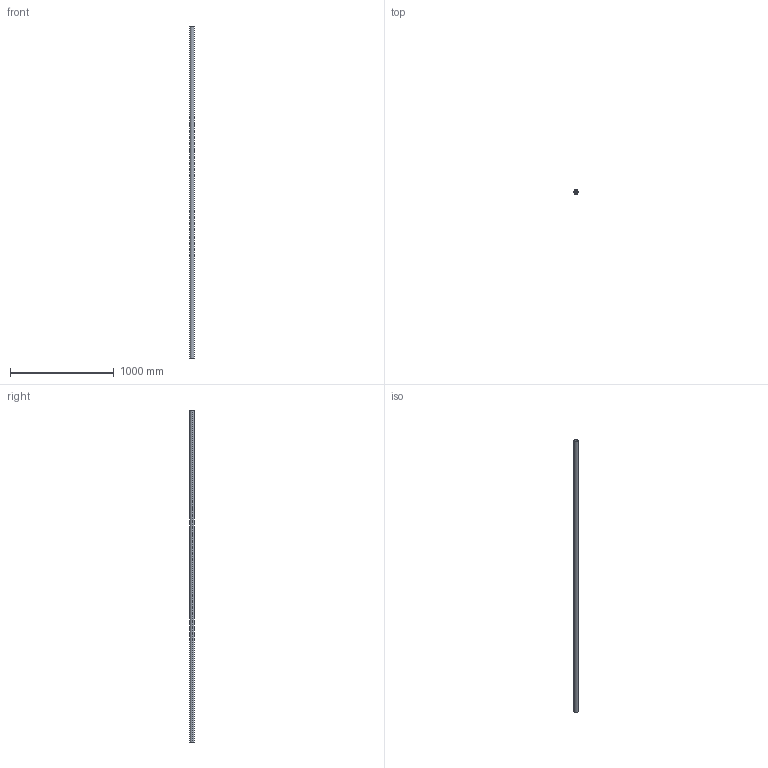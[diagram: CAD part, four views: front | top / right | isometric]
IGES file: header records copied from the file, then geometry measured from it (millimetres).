
Start section: SolidWorks IGES file using analytic representation for surfaces
Global section: file name: C:\Users\IanO\Desktop\L1771_v2\L1771.40_v2\L1771.40_v2_20230705_IGES\L1771.40-3200.igs; native system: SolidWorks 2019; preprocessor: SolidWorks 2019; author: IanO; date: 230705.161730; units: millimetre
Bounding box: 40 x 40 x 3200 mm (x, y, z)
Surface area: 684892.3 mm2 (no closed solid volume)
Topology: 0 solids, 0 shells, 6 faces, 272 edges, 272 vertices
Faces by surface type: revolution 4, bspline 2
